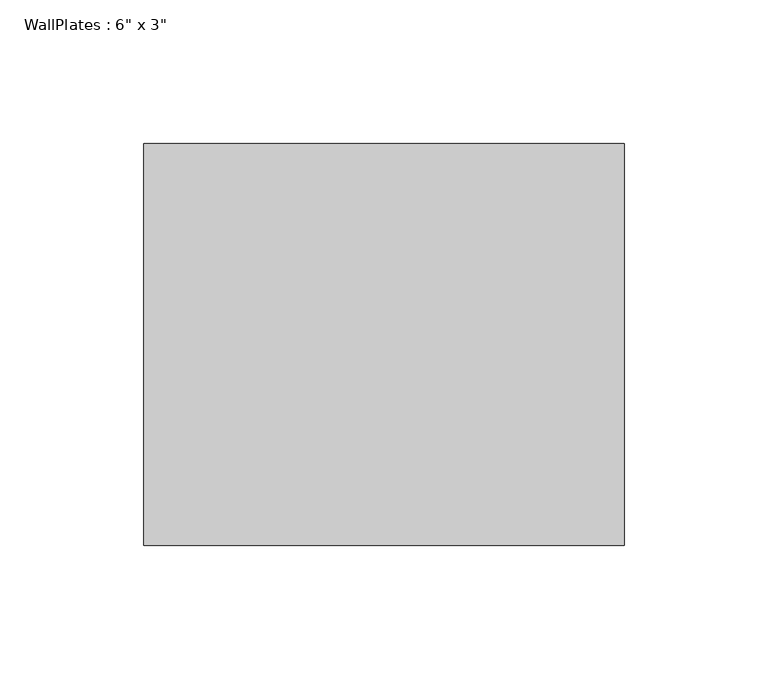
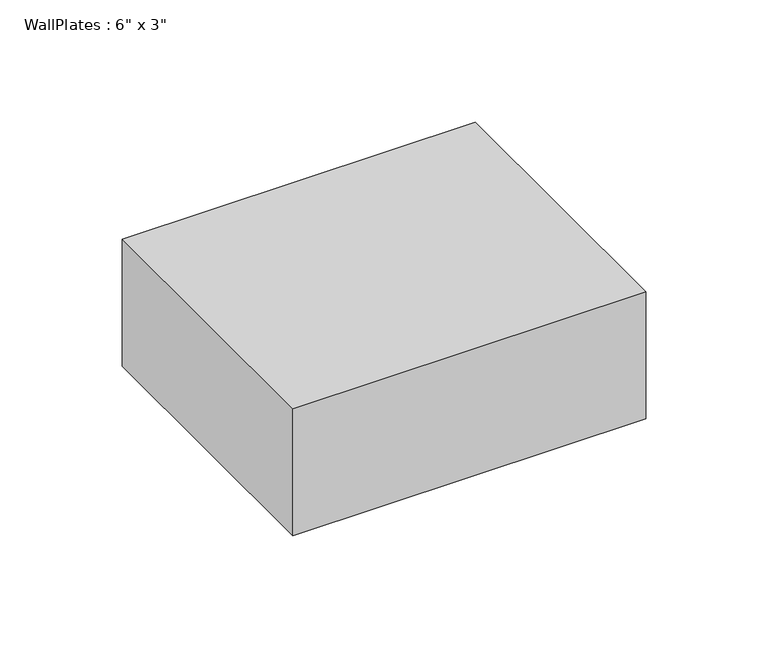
"""IFC4 building model written with IfcOpenShell, lengths in millimetres: beam geometry."""

from ifc_helpers import new_model, si_unit, frame, origin, place, context, project, spatial, polyline, outline, extrude, source, transform, mapped, element, save


def beam_8e5e3f5a(model_context):
    return source(origin(), model_context, "Body", "SweptSolid", [
        extrude(outline(polyline([(-83.5025, -69.85), (-83.5025, 69.85), (83.5025, 69.85), (83.5025, -69.85), (-83.5025, -69.85)])), frame((0.0, 0.0, -31.75), z_axis=(0.0, 0.0, 1.0), x_axis=(1.0, 0.0, 0.0)), (0.0, 0.0, 1.0), 63.5),
    ])


if __name__ == "__main__":
    model = new_model("IFC4")
    model_context = context("Model", 3, world=origin())
    ifc_project = project(units=[si_unit("LENGTHUNIT", "METRE", prefix="MILLI")], contexts=[model_context])
    site = spatial("IfcSite", under=ifc_project)
    building = spatial("IfcBuilding", under=site)
    placement = place(None, origin())
    beam_shape = beam_8e5e3f5a(model_context)
    element("IfcBeam", 1, ObjectType="WallPlates : 6\" x 3\"", at=placement, inside=building, context=model_context, shape_type="MappedRepresentation", body=[
        mapped(beam_shape, transform((0.0, 0.0, 0.0), x_axis=(1.0, 0.0, 0.0), y_axis=(0.0, 1.0, 0.0), z_axis=(0.0, 0.0, 1.0))),
    ])
    save(model, "model.ifc")
